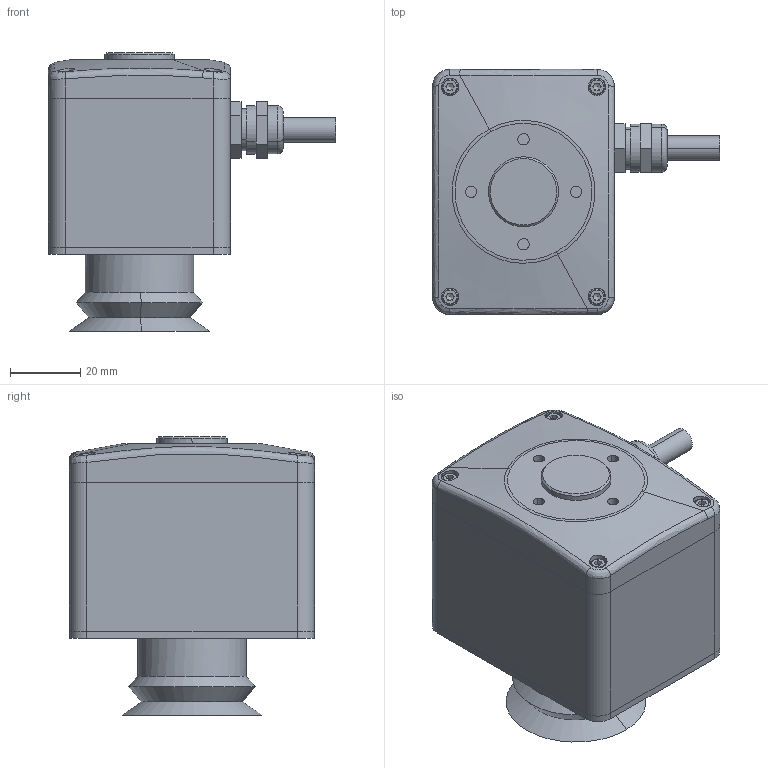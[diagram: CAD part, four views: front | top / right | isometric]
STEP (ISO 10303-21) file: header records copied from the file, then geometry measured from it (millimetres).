
FILE_DESCRIPTION (( 'STEP AP203' ), '1' );
FILE_NAME ('Z-ESC-70-1-LM 20230129.STEP', '2023-02-02T07:39:31', ( '' ), ( '' ), 'SwSTEP 2.0', 'SolidWorks 2018', '' );
FILE_SCHEMA (( 'CONFIG_CONTROL_DESIGN' ));
Length unit declared in the file: millimetre
Products named in the file (12): cross recessed small pan head screws gb_GB_CROSS_SCREWS_TYPE3 M2.5X6-6-N; Z-ESC-70-1-LM(2)^Z-ESC-70-1-LM; Part35^Z-ESC-70-1-LM(2)_Z-ESC-70-1-LM; Z-ESC-70-1-LM 20230129; S.00.1019010000300-V1.0^Z-ESC-70-1-LM(2)_Z-ESC-70-1-LM; xipan^Z-ESC-70-1-LM(2)_Z-ESC-70-1-LM; S.00.1019010000500-V1.0^Z-ESC-70-1-LM(2)_Z-ESC-70-1-LM; xipanzuo^Z-ESC-70-1-LM(2)_Z-ESC-70-1-LM; hexagon socket head cap screws gb_GB_FASTENER_SCREWS_HSHCS M2.5X5-N; S.00.1019010000201-V1.0^Z-ESC-70-1-LM(2)_Z-ESC-70-1-LM; Part23^Z-ESC-70-1-LM(2)_Z-ESC-70-1-LM; hexagon socket head cap screws gb_GB_FASTENER_SCREWS_HSHCS M3X6-N
Assembly tree (23 placements, depth 3):
  Z-ESC-70-1-LM 20230129
    Z-ESC-70-1-LM(2)^Z-ESC-70-1-LM
      S.00.1019010000201-V1.0^Z-ESC-70-1-LM(2)_Z-ESC-70-1-LM
      S.00.1019010000300-V1.0^Z-ESC-70-1-LM(2)_Z-ESC-70-1-LM
      Part23^Z-ESC-70-1-LM(2)_Z-ESC-70-1-LM
      S.00.1019010000500-V1.0^Z-ESC-70-1-LM(2)_Z-ESC-70-1-LM
      Part35^Z-ESC-70-1-LM(2)_Z-ESC-70-1-LM
    xipan^Z-ESC-70-1-LM(2)_Z-ESC-70-1-LM
    hexagon socket head cap screws gb_GB_FASTENER_SCREWS_HSHCS M2.5X5-N  x10
    cross recessed small pan head screws gb_GB_CROSS_SCREWS_TYPE3 M2.5X6-6-N  x3
    hexagon socket head cap screws gb_GB_FASTENER_SCREWS_HSHCS M3X6-N  x2
    xipanzuo^Z-ESC-70-1-LM(2)_Z-ESC-70-1-LM
Bounding box: 82 x 70 x 79.5 mm (x, y, z)
Volume: 87921.5 mm3; surface area: 58718.1 mm2
Topology: 22 solids, 22 shells, 715 faces, 1653 edges, 1042 vertices
Faces by surface type: plane 375, cylinder 250, cone 61, torus 16, bspline 10, sphere 3
Full cylindrical faces by diameter (mm): 2.5 x13, 3 x2, 4.5 x14, 5.5 x2, 31 x1
Entity records: 18463 total; most frequent: CARTESIAN_POINT 5655, DIRECTION 2457, ORIENTED_EDGE 2198, EDGE_CURVE 1099, AXIS2_PLACEMENT_3D 951, VERTEX_POINT 717, EDGE_LOOP 594, VECTOR 555
